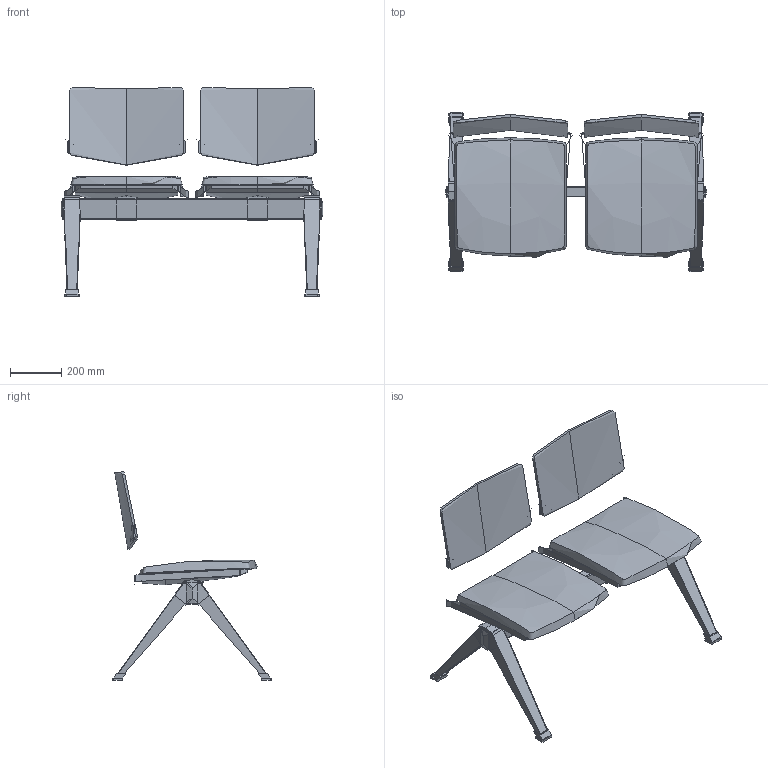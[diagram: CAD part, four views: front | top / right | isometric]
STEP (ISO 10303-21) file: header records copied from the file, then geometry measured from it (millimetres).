
FILE_DESCRIPTION(/* description */ (''),/* implementation_level */ '2;1');
FILE_NAME(/* name */ 'Seance 099-V2',/* time_stamp */ '2020-03-26T14:34:20+01:00',/* author */ (''),/* organization */ (''),/* preprocessor_version */ 'ST-DEVELOPER v16.5',/* originating_system */ '',/* authorisation */ '');
FILE_SCHEMA (('AUTOMOTIVE_DESIGN'));
Length unit declared in the file: millimetre
Products named in the file (1): Document
Bounding box: 1020 x 620 x 812.99 mm (x, y, z)
Volume: 19578850.2 mm3; surface area: 2947797.8 mm2
Topology: 36 solids, 43 shells, 412 faces, 966 edges, 616 vertices
Faces by surface type: bspline 224, plane 188
Entity records: 14616 total; most frequent: CARTESIAN_POINT 8313, ORIENTED_EDGE 1808, EDGE_CURVE 944, B_SPLINE_CURVE_WITH_KNOTS 761, VERTEX_POINT 606, ADVANCED_FACE 412, FACE_OUTER_BOUND 412, EDGE_LOOP 412
